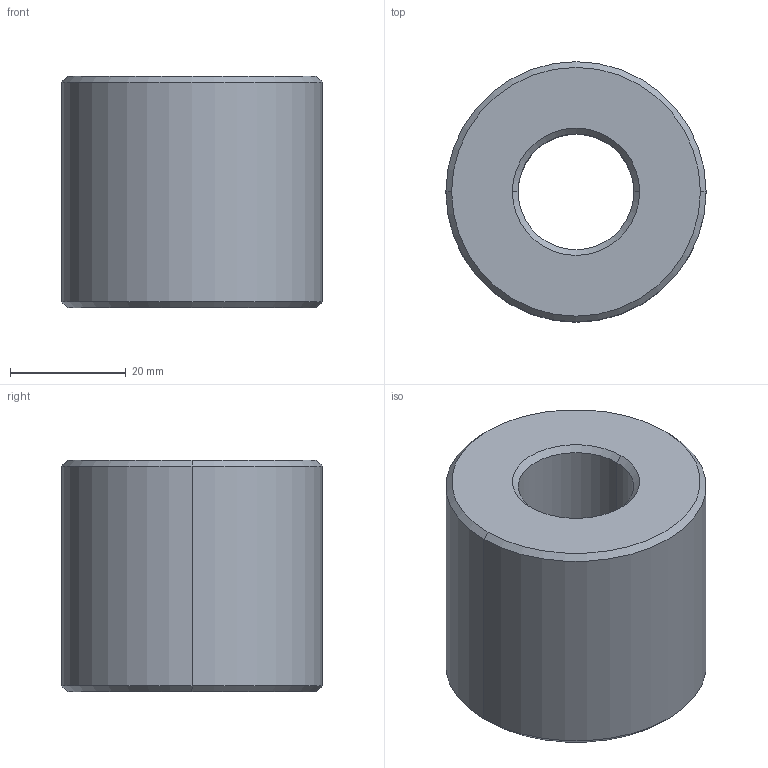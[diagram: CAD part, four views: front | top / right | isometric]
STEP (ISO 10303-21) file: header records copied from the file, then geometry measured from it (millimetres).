
FILE_DESCRIPTION (( 'STEP AP203' ), '1' );
FILE_NAME ('L1343.L20-04.step', '2024-10-24T14:41:30', ( '' ), ( '' ), 'SwSTEP 2.0', 'SolidWorks 2019', '' );
FILE_SCHEMA (( 'CONFIG_CONTROL_DESIGN' ));
Length unit declared in the file: millimetre
Products named in the file (1): L1343.L20-04
Bounding box: 45 x 45 x 40 mm (x, y, z)
Volume: 50846.7 mm3; surface area: 10481.4 mm2
Topology: 1 solids, 1 shells, 14 faces, 28 edges, 16 vertices
Faces by surface type: cone 8, cylinder 4, plane 2
Entity records: 445 total; most frequent: DIRECTION 74, CARTESIAN_POINT 59, ORIENTED_EDGE 56, AXIS2_PLACEMENT_3D 31, EDGE_CURVE 28, VERTEX_POINT 16, EDGE_LOOP 16, CIRCLE 16
